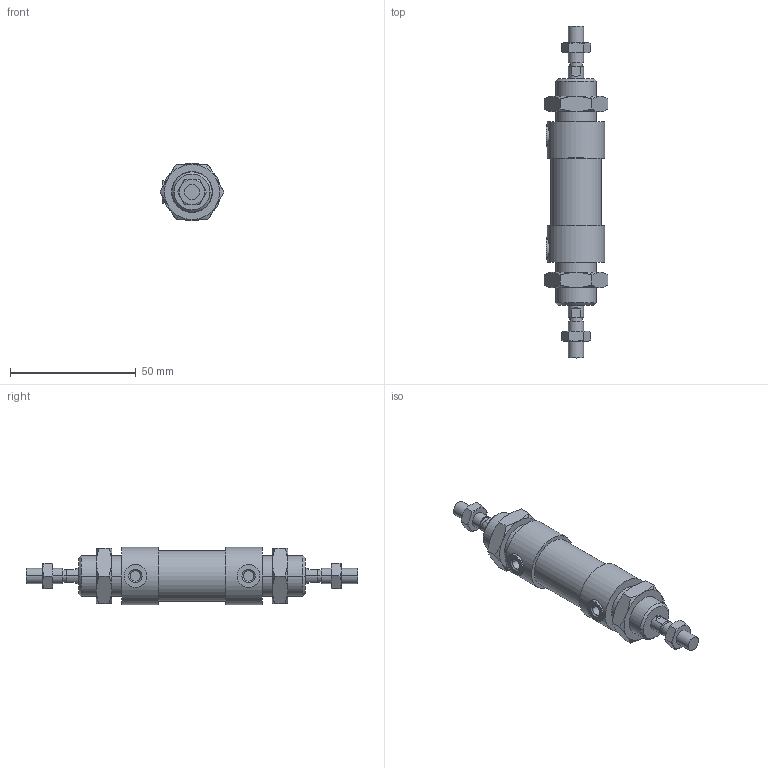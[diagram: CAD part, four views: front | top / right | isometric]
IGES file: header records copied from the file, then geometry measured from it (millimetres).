
Global section: file name: No Iges File Name specified; native system: AutoDesk Inventor R10; preprocessor: AutoDesk Inventor Iges Exporter R10; author: No Author specified; organization: No Organization specified; date: 20060105.143313; units: millimetre
Bounding box: 25.4 x 132 x 23 mm (x, y, z)
Volume: 31844.7 mm3; surface area: 13800 mm2
Topology: 6 solids, 6 shells, 181 faces, 389 edges, 228 vertices
Faces by surface type: cone 68, plane 58, cylinder 21, bspline 20, revolution 14
Full cylindrical faces by diameter (mm): 20 x1, 23 x2
